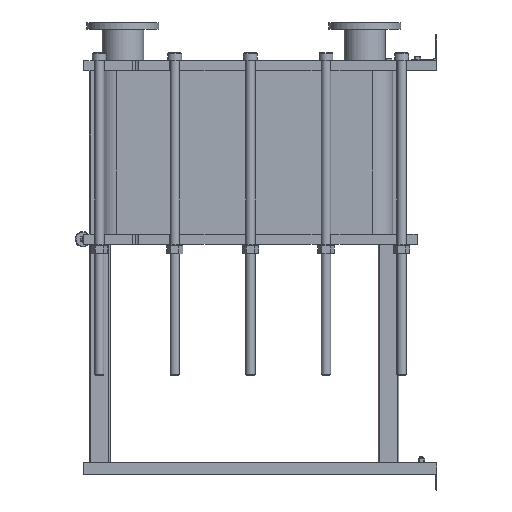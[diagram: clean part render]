
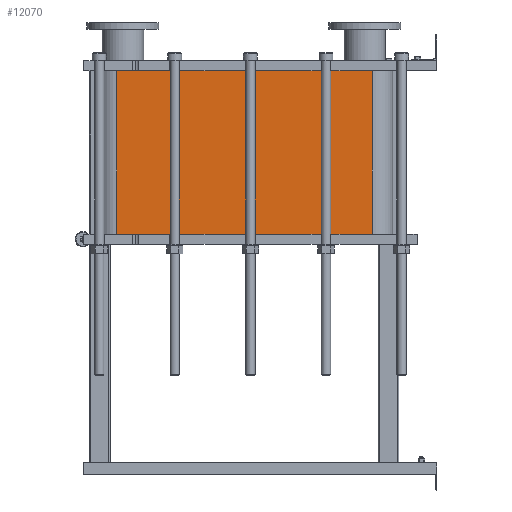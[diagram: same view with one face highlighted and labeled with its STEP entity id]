
A CAD part, left-side view. The second image highlights one B-rep face of the part: STEP entity #12070.
In plain terms, the highlighted planar face has unit normal (-1, 0, 0).
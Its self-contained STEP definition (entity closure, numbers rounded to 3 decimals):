
#1064=LINE('',#21140,#2164);
#1065=LINE('',#21144,#2165);
#1066=LINE('',#21146,#2166);
#1067=LINE('',#21147,#2167);
#2164=VECTOR('',#15790,10.);
#2165=VECTOR('',#15795,10.);
#2166=VECTOR('',#15796,10.);
#2167=VECTOR('',#15797,10.);
#3304=FACE_OUTER_BOUND('',#4091,.T.);
#4091=EDGE_LOOP('',(#9793,#9794,#9795,#9796));
#5677=VERTEX_POINT('',#21137);
#5678=VERTEX_POINT('',#21139);
#5679=VERTEX_POINT('',#21143);
#5680=VERTEX_POINT('',#21145);
#7118=EDGE_CURVE('',#5678,#5677,#1064,.T.);
#7120=EDGE_CURVE('',#5677,#5679,#1065,.T.);
#7121=EDGE_CURVE('',#5680,#5679,#1066,.T.);
#7122=EDGE_CURVE('',#5680,#5678,#1067,.T.);
#9793=ORIENTED_EDGE('',*,*,#7120,.T.);
#9794=ORIENTED_EDGE('',*,*,#7121,.F.);
#9795=ORIENTED_EDGE('',*,*,#7122,.T.);
#9796=ORIENTED_EDGE('',*,*,#7118,.T.);
#11441=PLANE('',#13191);
#12070=ADVANCED_FACE('',(#3304),#11441,.T.);
#13191=AXIS2_PLACEMENT_3D('',#21142,#15793,#15794);
#15790=DIRECTION('',(0.,0.,-1.));
#15793=DIRECTION('center_axis',(-1.,0.,0.));
#15794=DIRECTION('ref_axis',(0.,1.,0.));
#15795=DIRECTION('',(0.,-1.,0.));
#15796=DIRECTION('',(0.,0.,-1.));
#15797=DIRECTION('',(0.,1.,0.));
#21137=CARTESIAN_POINT('',(-248.152,1243.818,-634.8));
#21139=CARTESIAN_POINT('',(-248.152,1243.818,0.));
#21140=CARTESIAN_POINT('',(-248.152,1243.818,0.));
#21142=CARTESIAN_POINT('Origin',(-248.152,251.818,0.));
#21143=CARTESIAN_POINT('',(-248.152,251.818,-634.8));
#21144=CARTESIAN_POINT('',(-248.152,499.818,-634.8));
#21145=CARTESIAN_POINT('',(-248.152,251.818,0.));
#21146=CARTESIAN_POINT('',(-248.152,251.818,0.));
#21147=CARTESIAN_POINT('',(-248.152,251.818,0.));
